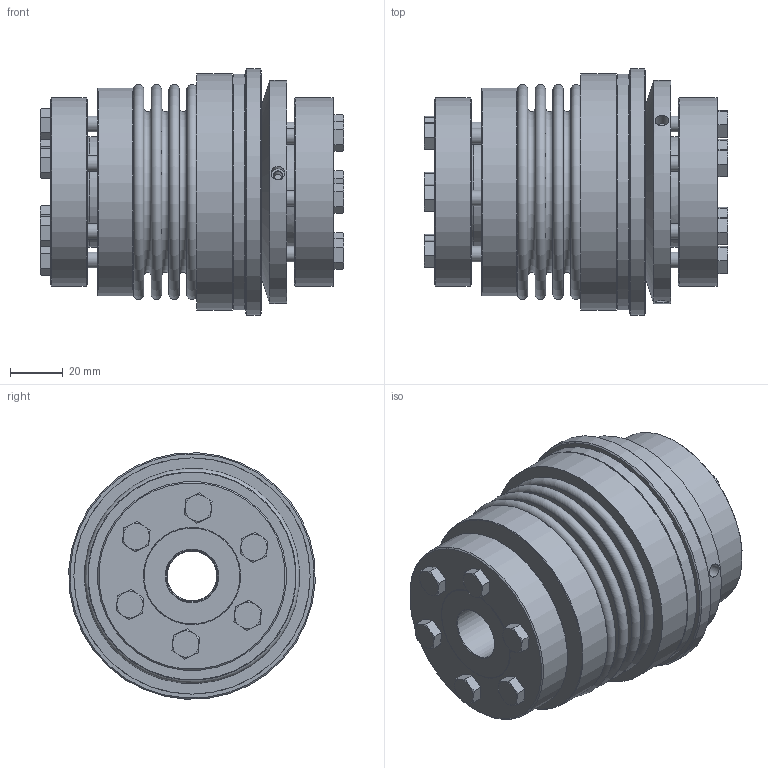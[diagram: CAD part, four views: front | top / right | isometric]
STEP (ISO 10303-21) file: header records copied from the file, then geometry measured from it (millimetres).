
FILE_DESCRIPTION( ( 'Unknown' ), '1' );
FILE_NAME( 'K:/Konstruktion/Korrigierte 3D Modelle/KBK-B-AA/KBK-BAA-80-116.stp', 'Unknown', ( 'Unknown' ), ( 'Unknown' ), 'PSStep 16.0.42', 'Unknown', ' ' );
FILE_SCHEMA( ( 'AUTOMOTIVE_DESIGN { 1 0 10303 214 1 1 1 1 }' ) );
Length unit declared in the file: millimetre
Products named in the file (18): Druckring 80_0; Stellring 80_0; Druckring L-A-80_0; KBK L-A-80 Grundkörper_0; din_en_24017_m6x25_0; A-150; BA6-150; BA80-150_Standard; Hex Screw GradeC_DIN_ISO 4018 - M6 x 30-NN; DR80-150_Standard; Assem1; BK80-150_Standard_3; Flansch BK150
Assembly tree (27 placements, depth 4):
  Assem1
    BK80-150_Standard_3
    Flansch BK150
    BA6-150
      BA80-150_Standard
      Hex Screw GradeC_DIN_ISO 4018 - M6 x 30-NN  x6
      DR80-150_Standard
    A-150
      Stellring 80_0
        Stellring 80_0
      Druckring 80_0
        Druckring 80_0
      KBK L-A-80 Grundkörper_0
        KBK L-A-80 Grundkörper_0
      din_en_24017_m6x25_0  x6
        din_en_24017_m6x25_0
      Druckring L-A-80_0
        Druckring L-A-80_0
Bounding box: 115.75 x 93.88 x 93.88 mm (x, y, z)
Volume: 385217.3 mm3; surface area: 159772.7 mm2
Topology: 20 solids, 20 shells, 410 faces, 858 edges, 545 vertices
Faces by surface type: plane 187, cone 125, cylinder 76, torus 22
Full cylindrical faces by diameter (mm): 3.242 x3, 4.917 x6, 5 x10, 5.2 x3, 6 x12, 6.6 x12, 8.8 x6, 19 x1, 20 x1, 37.5 x1, 40 x2, 42.29 x2, 48 x1, 52 x1, 62 x2, 70 x1, 70.7 x2, 71.9 x2, 72 x2, 79.5 x1, 85 x1, 87 x1, 90 x2, 94 x1
Entity records: 7642 total; most frequent: CARTESIAN_POINT 1298, DIRECTION 990, ORIENTED_EDGE 614, AXIS2_PLACEMENT_3D 471, EDGE_LOOP 420, EDGE_CURVE 307, FACE_OUTER_BOUND 293, VERTEX_POINT 267
